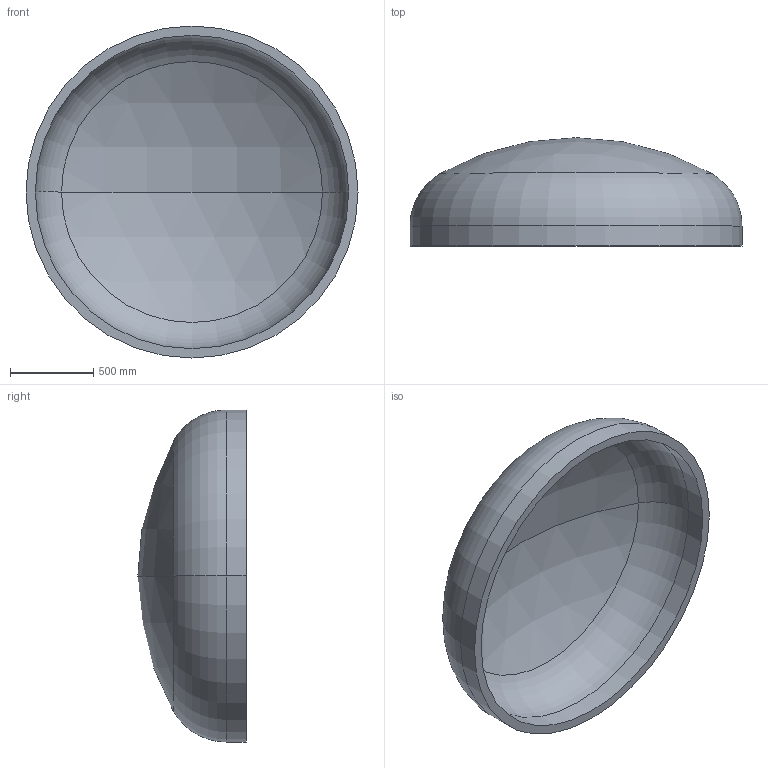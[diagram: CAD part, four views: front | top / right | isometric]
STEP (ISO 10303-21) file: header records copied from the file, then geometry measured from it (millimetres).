
FILE_DESCRIPTION (( 'STEP AP203' ), '1' );
FILE_NAME ('DIN 28013 Korbbogenform_-_Boden DIN 28013 - 2000 x 120 - I - s=56.step', '2016-07-01T13:58:28', ( '' ), ( '' ), 'SwSTEP 2.0', 'SolidWorks 2013', '' );
FILE_SCHEMA (( 'CONFIG_CONTROL_DESIGN' ));
Length unit declared in the file: millimetre
Products named in the file (1): DIN 28013 Korbbogenform_-_Boden DIN 28013 - 2000 x 120 - I - s=56
Bounding box: 2000 x 652.55 x 2000 mm (x, y, z)
Volume: 276240090.5 mm3; surface area: 10214288.9 mm2
Topology: 1 solids, 1 shells, 13 faces, 24 edges, 14 vertices
Faces by surface type: torus 4, cylinder 4, sphere 4, plane 1
Entity records: 407 total; most frequent: DIRECTION 72, CARTESIAN_POINT 52, ORIENTED_EDGE 48, AXIS2_PLACEMENT_3D 34, EDGE_CURVE 24, CIRCLE 20, VERTEX_POINT 14, EDGE_LOOP 14
